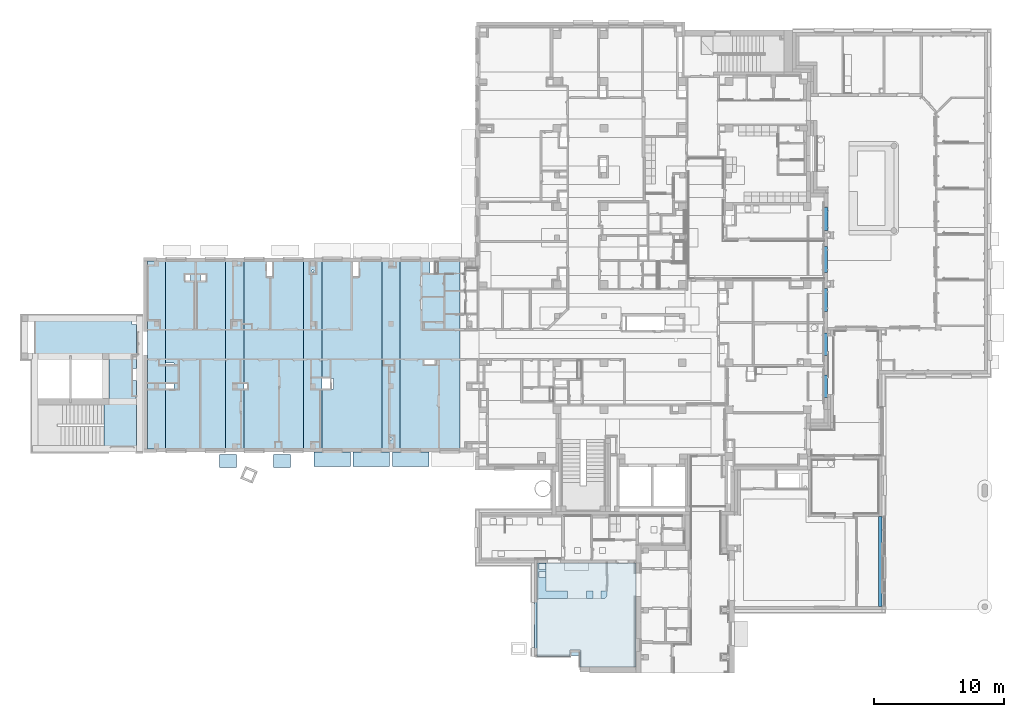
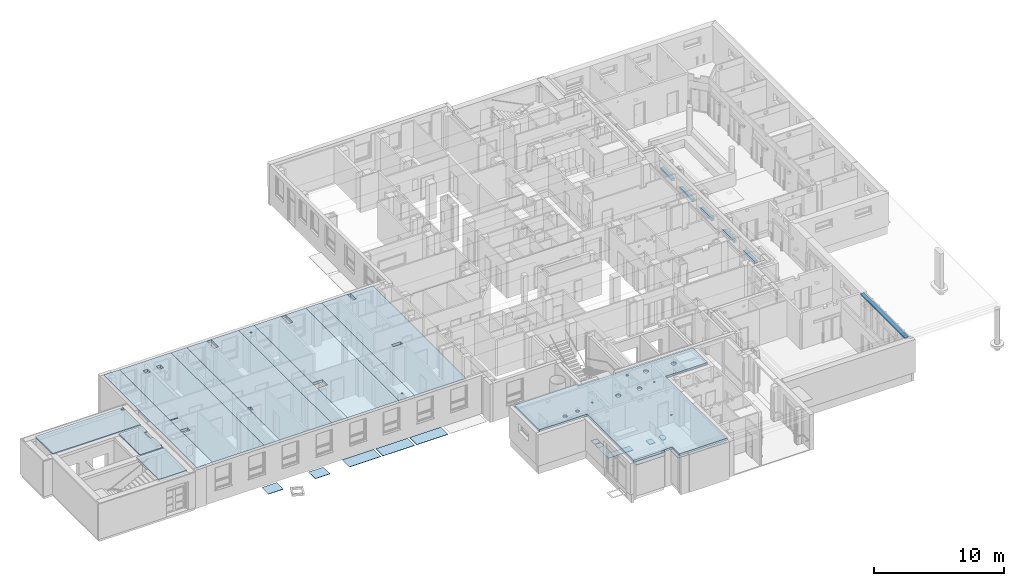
# One storey, part 7 of 140: 19 slabs, 6 beams, 25 openings.
"""IFC4 building model written with IfcOpenShell, lengths in metres."""

from ifc_helpers import new_model, entity, si_unit, converted_unit, derived_unit, frame, frame_2d, origin, origin_with_axes, place, context, subcontext, project, spatial, polyline, rectangle, circle, outline, extrude, material, element, save


model = new_model("IFC4")

# Units and contexts
model_context = context("Model", 3, precision=1e-05, world=origin())
body_context = subcontext(model_context, "Body", "Model", "MODEL_VIEW")
ifc_project = project(units=[si_unit("LENGTHUNIT", "METRE"), si_unit("AREAUNIT", "SQUARE_METRE"), si_unit("VOLUMEUNIT", "CUBIC_METRE"), si_unit("MASSUNIT", "GRAM", prefix="KILO"), converted_unit("PLANEANGLEUNIT", "DEGREE", entity("IfcPlaneAngleMeasure", 0.0174532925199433), si_unit("PLANEANGLEUNIT", "RADIAN"), dimensions=[0, 0, 0, 0, 0, 0, 0]), derived_unit("THERMALTRANSMITTANCEUNIT", [(si_unit("POWERUNIT", "WATT"), 1), (si_unit("THERMODYNAMICTEMPERATUREUNIT", "KELVIN"), -1), (si_unit("LENGTHUNIT", "METRE"), -2)]), derived_unit("VOLUMETRICFLOWRATEUNIT", [(si_unit("LENGTHUNIT", "METRE"), 3), (converted_unit("TIMEUNIT", "hour", entity("IfcTimeMeasure", 3600.0), si_unit("TIMEUNIT", "SECOND"), dimensions=[0, 0, 1, 0, 0, 0, 0]), -1), (si_unit("LENGTHUNIT", "METRE"), -1)])], contexts=[model_context])

# Site, building, storey
site_placement = place(None, origin())
site = spatial("IfcSite", under=ifc_project, at=site_placement, Name="3. ASŘ", CompositionType="ELEMENT")
building_placement = place(site_placement, origin())
building = spatial("IfcBuilding", under=site, at=building_placement, Name="Pavilon C", CompositionType="ELEMENT")
storey_placement = place(building_placement, origin())
storey = spatial("IfcBuildingStorey", under=building, at=storey_placement, Name="Půdorys 1.NP", CompositionType="ELEMENT", Elevation=0.0)

# Beams
ifc_material_1 = material(Name="PY3e - NOP 250-1750")
beam_1_placement = place(storey_placement, frame((51.5, 4.52499999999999, 2.1), z_axis=(0.0, 0.0, 1.0), x_axis=(0.0, 1.0, 0.0)))
element("IfcBeam", 1, at=beam_1_placement, inside=storey, material=ifc_material_1, Name="%K0PY3e", PredefinedType="NOTDEFINED", context=body_context, shape_type="SweptSolid", body=[
    extrude(rectangle(XDim=0.25, YDim=0.249, at=frame_2d((0.125, 0.1245), x_axis=(1.0, 0.0))), frame((0.0, 0.0, 0.0), z_axis=(1.0, 0.0, 0.0), x_axis=(0.0, 1.0, 0.0)), (0.0, 0.0, 1.0), 1.75),
])
ifc_material_2 = material(Name="PY4e - NOP 250-2000")
beam_2_placement = place(storey_placement, frame((51.5, 14.125, 2.1), z_axis=(0.0, 0.0, 1.0), x_axis=(0.0, 1.0, 0.0)))
element("IfcBeam", 2, at=beam_2_placement, inside=storey, material=ifc_material_2, Name="%K0PY4e", PredefinedType="NOTDEFINED", context=body_context, shape_type="SweptSolid", body=[
    extrude(rectangle(XDim=0.25, YDim=0.249, at=frame_2d((0.125, 0.1245), x_axis=(1.0, 0.0))), frame((0.0, 0.0, 0.0), z_axis=(1.0, 0.0, 0.0), x_axis=(0.0, 1.0, 0.0)), (0.0, 0.0, 1.0), 2.0),
])
ifc_material_3 = material(Name="PY3e - NOP 250-1750")
beam_3_placement = place(storey_placement, frame((51.5, 11.15, 2.1), z_axis=(0.0, 0.0, 1.0), x_axis=(0.0, 1.0, 0.0)))
element("IfcBeam", 3, at=beam_3_placement, inside=storey, material=ifc_material_3, Name="%K0PY3e", PredefinedType="NOTDEFINED", context=body_context, shape_type="SweptSolid", body=[
    extrude(rectangle(XDim=0.25, YDim=0.249, at=frame_2d((0.125, 0.1245), x_axis=(1.0, 0.0))), frame((0.0, 0.0, 0.0), z_axis=(1.0, 0.0, 0.0), x_axis=(0.0, 1.0, 0.0)), (0.0, 0.0, 1.0), 1.75),
])
ifc_material_4 = material(Name="PY3e - NOP 250-1750")
beam_4_placement = place(storey_placement, frame((51.5, 7.74999999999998, 2.1), z_axis=(0.0, 0.0, 1.0), x_axis=(0.0, 1.0, 0.0)))
element("IfcBeam", 4, at=beam_4_placement, inside=storey, material=ifc_material_4, Name="%K0PY3e", PredefinedType="NOTDEFINED", context=body_context, shape_type="SweptSolid", body=[
    extrude(rectangle(XDim=0.25, YDim=0.249, at=frame_2d((0.125, 0.1245), x_axis=(1.0, 0.0))), frame((0.0, 0.0, 0.0), z_axis=(1.0, 0.0, 0.0), x_axis=(0.0, 1.0, 0.0)), (0.0, 0.0, 1.0), 1.75),
])
ifc_material_5 = material(Name="PY3f - NOP 300-1750")
beam_5_placement = place(storey_placement, frame((51.55, 17.35, 2.1), z_axis=(0.0, 0.0, 1.0), x_axis=(0.0, 1.0, 0.0)))
element("IfcBeam", 5, at=beam_5_placement, inside=storey, material=ifc_material_5, Name="%K0PY3f", PredefinedType="NOTDEFINED", context=body_context, shape_type="SweptSolid", body=[
    extrude(rectangle(XDim=0.3, YDim=0.249, at=frame_2d((0.15, 0.1245), x_axis=(1.0, 0.0))), frame((0.0, 0.0, 0.0), z_axis=(1.0, 0.0, 0.0), x_axis=(0.0, 1.0, 0.0)), (0.0, 0.0, 1.0), 1.75),
])
ifc_material_6 = material(Name="ZELEZOBETONOVÁ KCE")
beam_6_placement = place(storey_placement, frame((55.7000000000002, -11.5, 3.28), z_axis=(0.0, 0.0, 1.0), x_axis=(0.0, 1.0, 0.0)))
element("IfcBeam", 6, at=beam_6_placement, inside=storey, material=ifc_material_6, PredefinedType="NOTDEFINED", context=body_context, shape_type="SweptSolid", body=[
    extrude(rectangle(XDim=0.3, YDim=0.12, at=frame_2d((0.15, 0.06), x_axis=(1.0, 0.0))), frame((0.0, 0.0, 0.0), z_axis=(1.0, 0.0, 0.0), x_axis=(0.0, 1.0, 0.0)), (0.0, 0.0, 1.0), 6.9),
])

# Slab, opening
ifc_material_7 = material(Name="PZD")
slab_1_placement = place(storey_placement, frame((-9.37499999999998, 7.80000000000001, 3.38)))
slab_1 = element("IfcSlab", 7, at=slab_1_placement, inside=storey, material=ifc_material_7, PredefinedType="FLOOR", context=body_context, shape_type="SweptSolid", body=[
    extrude(rectangle(XDim=7.84999999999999, YDim=2.70000000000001, at=frame_2d((3.925, 1.35), x_axis=(1.0, 0.0))), origin_with_axes(), (0.0, 0.0, 1.0), 0.1),
])
opening_1_placement = place(slab_1_placement, frame((7.49999999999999, 2.35, 0.0)))
element("IfcOpeningElement", 8, at=opening_1_placement, cuts=slab_1, Name="Prostup deskou", ObjectType="Opening", context=body_context, shape_type="SweptSolid", body=[
    extrude(rectangle(XDim=0.2, YDim=0.35, at=frame_2d((0.0, 1.81898940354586e-15), x_axis=(0.0, -1.0))), frame((0.175, 0.0999999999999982, 0.0), z_axis=(0.0, 0.0, 1.0), x_axis=(1.0, 0.0, 0.0)), (0.0, 0.0, 1.0), 0.1),
])

# Slab, openings
ifc_material_8 = material(Name="PZD")
slab_2_placement = place(storey_placement, frame((-3.62499999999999, 4.3, 3.38)))
slab_2 = element("IfcSlab", 9, at=slab_2_placement, inside=storey, material=ifc_material_8, PredefinedType="FLOOR", context=body_context, shape_type="SweptSolid", body=[
    extrude(rectangle(XDim=2.1, YDim=3.3, at=frame_2d((1.05, 1.65), x_axis=(1.0, 0.0))), origin_with_axes(), (0.0, 0.0, 1.0), 0.1),
])
opening_2_placement = place(slab_2_placement, frame((2.0, 0.15, 0.0)))
element("IfcOpeningElement", 10, at=opening_2_placement, cuts=slab_2, Name="Prostup deskou", ObjectType="Opening", context=body_context, shape_type="SweptSolid", body=[
    extrude(rectangle(XDim=0.1, YDim=0.1, at=frame_2d((0.0, 0.0), x_axis=(0.0, -1.0))), frame((0.05, 0.05, 0.0), z_axis=(0.0, 0.0, 1.0), x_axis=(1.0, 0.0, 0.0)), (0.0, 0.0, 1.0), 0.1),
])
opening_3_placement = place(slab_2_placement, frame((1.8, 1.55, 0.0)))
element("IfcOpeningElement", 11, at=opening_3_placement, cuts=slab_2, Name="Prostup deskou", ObjectType="Opening", context=body_context, shape_type="SweptSolid", body=[
    extrude(rectangle(XDim=0.9, YDim=0.3, at=frame_2d((0.0, -9.09494701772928e-16), x_axis=(0.0, -1.0))), frame((0.15, 0.450000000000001, 0.0), z_axis=(0.0, 0.0, 1.0), x_axis=(1.0, 0.0, 0.0)), (0.0, 0.0, 1.0), 0.1),
])

# Slabs
ifc_material_9 = material(Name="PZD")
slab_3_placement = place(storey_placement, frame((-4.0249, 0.700000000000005, 3.23)))
element("IfcSlab", 12, at=slab_3_placement, inside=storey, material=ifc_material_9, PredefinedType="FLOOR", context=body_context, shape_type="SweptSolid", body=[
    extrude(rectangle(XDim=2.4999, YDim=3.5, at=frame_2d((1.24995, 1.75), x_axis=(1.0, 0.0))), origin_with_axes(), (0.0, 0.0, 1.0), 0.25),
])
ifc_material_10 = material(Name="RZT")
slab_4_placement = place(storey_placement, frame((5.30000000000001, 0.600000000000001, 3.25)))
element("IfcSlab", 13, at=slab_4_placement, inside=storey, material=ifc_material_10, PredefinedType="FLOOR", context=body_context, shape_type="SweptSolid", body=[
    extrude(rectangle(XDim=1.4, YDim=14.4, at=frame_2d((0.700000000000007, 7.2), x_axis=(1.0, -2.59855629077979e-15))), frame((0.0, 3.63797880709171e-15, 0.0), z_axis=(0.0, 0.0, 1.0), x_axis=(1.0, 0.0, 0.0)), (0.0, 0.0, 1.0), 0.25),
])
ifc_material_11 = material(Name="RZT")
slab_5_placement = place(storey_placement, frame((-0.699999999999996, 0.600000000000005, 3.25)))
element("IfcSlab", 14, at=slab_5_placement, inside=storey, material=ifc_material_11, PredefinedType="FLOOR", context=body_context, shape_type="SweptSolid", body=[
    extrude(rectangle(XDim=1.4, YDim=14.4, at=frame_2d((0.700000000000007, 7.2), x_axis=(1.0, 0.0))), origin_with_axes(), (0.0, 0.0, 1.0), 0.25),
])

# Slab, openings
ifc_material_12 = material(Name="PZD")
slab_6_placement = place(storey_placement, frame((0.700000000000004, 0.600000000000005, 3.25)))
slab_6 = element("IfcSlab", 15, at=slab_6_placement, inside=storey, material=ifc_material_12, PredefinedType="FLOOR", context=body_context, shape_type="SweptSolid", body=[
    extrude(rectangle(XDim=14.4, YDim=4.60000000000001, at=frame_2d((2.3, -7.2), x_axis=(-1.01054966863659e-15, -1.0))), frame((1.45519152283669e-14, 14.4, 0.0), z_axis=(0.0, 0.0, 1.0), x_axis=(1.0, 0.0, 0.0)), (0.0, 0.0, 1.0), 0.25),
])
opening_4_placement = place(slab_6_placement, frame((1.52500000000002, 12.905, 0.0)))
element("IfcOpeningElement", 16, at=opening_4_placement, cuts=slab_6, Name="Prostup deskou", ObjectType="Opening", context=body_context, shape_type="SweptSolid", body=[
    extrude(rectangle(XDim=0.45, YDim=0.4, at=frame_2d((0.0, 0.0), x_axis=(0.0, -1.0))), frame((0.2, 0.225, 0.0), z_axis=(0.0, 0.0, 1.0), x_axis=(1.0, 0.0, 0.0)), (0.0, 0.0, 1.0), 0.25),
])
opening_5_placement = place(slab_6_placement, frame((2.67500000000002, 12.905, 0.0)))
element("IfcOpeningElement", 17, at=opening_5_placement, cuts=slab_6, Name="Prostup deskou", ObjectType="Opening", context=body_context, shape_type="SweptSolid", body=[
    extrude(rectangle(XDim=0.45, YDim=0.4, at=frame_2d((0.0, 0.0), x_axis=(0.0, -1.0))), frame((0.2, 0.225, 0.0), z_axis=(0.0, 0.0, 1.0), x_axis=(1.0, 0.0, 0.0)), (0.0, 0.0, 1.0), 0.25),
])
opening_6_placement = place(slab_6_placement, frame((1.45519152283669e-14, 4.6, 0.0)))
element("IfcOpeningElement", 18, at=opening_6_placement, cuts=slab_6, Name="Prostup deskou", ObjectType="Opening", context=body_context, shape_type="SweptSolid", body=[
    extrude(rectangle(XDim=0.4, YDim=0.65, at=frame_2d((0.0, 0.0), x_axis=(0.0, -1.0))), frame((0.325, 0.2, 0.0), z_axis=(0.0, 0.0, 1.0), x_axis=(1.0, 0.0, 0.0)), (0.0, 0.0, 1.0), 0.25),
])
opening_7_placement = place(slab_6_placement, frame((1.44382283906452e-14, 6.475, 0.0)))
element("IfcOpeningElement", 19, at=opening_7_placement, cuts=slab_6, Name="Prostup deskou", ObjectType="Opening", context=body_context, shape_type="SweptSolid", body=[
    extrude(rectangle(XDim=0.1, YDim=0.65, at=frame_2d((-5.6843418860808e-17, 1.81898940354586e-15), x_axis=(1.13686837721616e-15, -1.0))), frame((0.325, 0.0499999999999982, 0.0), z_axis=(0.0, 0.0, 1.0), x_axis=(1.0, 0.0, 0.0)), (0.0, 0.0, 1.0), 0.25),
])

ifc_material_13 = material(Name="PZD")
slab_7_placement = place(storey_placement, frame((18.7, 0.600000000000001, 3.25)))
slab_7 = element("IfcSlab", 20, at=slab_7_placement, inside=storey, material=ifc_material_13, PredefinedType="FLOOR", context=body_context, shape_type="SweptSolid", body=[
    extrude(rectangle(XDim=14.4, YDim=4.60000000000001, at=frame_2d((2.3, -7.2), x_axis=(-5.05274834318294e-16, -1.0))), frame((7.27595761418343e-15, 14.4, 0.0), z_axis=(0.0, 0.0, 1.0), x_axis=(1.0, 0.0, 0.0)), (0.0, 0.0, 1.0), 0.25),
])
opening_8_placement = place(slab_7_placement, frame((2.275, 13.5, 0.0)))
element("IfcOpeningElement", 21, at=opening_8_placement, cuts=slab_7, Name="Prostup deskou", ObjectType="Opening", context=body_context, shape_type="SweptSolid", body=[
    extrude(rectangle(XDim=0.83, YDim=0.3, at=frame_2d((0.0, -1.81898940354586e-15), x_axis=(0.0, -1.0))), frame((0.15, 0.415000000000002, 0.0), z_axis=(0.0, 0.0, 1.0), x_axis=(1.0, 0.0, 0.0)), (0.0, 0.0, 1.0), 0.25),
])
opening_9_placement = place(slab_7_placement, frame((1.85000000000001, 6.5, 0.0)))
element("IfcOpeningElement", 22, at=opening_9_placement, cuts=slab_7, Name="Prostup deskou", ObjectType="Opening", context=body_context, shape_type="SweptSolid", body=[
    extrude(rectangle(XDim=0.3, YDim=0.8, at=frame_2d((0.0, 0.0), x_axis=(0.0, -1.0))), frame((0.4, 0.15, 0.0), z_axis=(0.0, 0.0, 1.0), x_axis=(1.0, 0.0, 0.0)), (0.0, 0.0, 1.0), 0.25),
])

ifc_material_14 = material(Name="PZD")
slab_8_placement = place(storey_placement, frame((12.7, 0.600000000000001, 3.25)))
slab_8 = element("IfcSlab", 23, at=slab_8_placement, inside=storey, material=ifc_material_14, PredefinedType="FLOOR", context=body_context, shape_type="SweptSolid", body=[
    extrude(rectangle(XDim=14.4, YDim=4.60000000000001, at=frame_2d((2.3, -7.2), x_axis=(-1.01054966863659e-15, -1.0))), frame((1.45519152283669e-14, 14.4, 0.0), z_axis=(0.0, 0.0, 1.0), x_axis=(1.0, 0.0, 0.0)), (0.0, 0.0, 1.0), 0.25),
])
opening_10_placement = place(slab_8_placement, frame((2.40000000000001, 13.23, 0.0)))
element("IfcOpeningElement", 24, at=opening_10_placement, cuts=slab_8, Name="Prostup deskou", ObjectType="Opening", context=body_context, shape_type="SweptSolid", body=[
    extrude(rectangle(XDim=1.1, YDim=0.4, at=frame_2d((-1.81898940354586e-15, -1.81898940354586e-15), x_axis=(0.0, -1.0))), frame((0.200000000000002, 0.550000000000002, 0.0), z_axis=(0.0, 0.0, 1.0), x_axis=(1.0, 0.0, 0.0)), (0.0, 0.0, 1.0), 0.25),
])
opening_11_placement = place(slab_8_placement, frame((7.27595761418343e-15, 4.6, 0.0)))
element("IfcOpeningElement", 25, at=opening_11_placement, cuts=slab_8, Name="Prostup deskou", ObjectType="Opening", context=body_context, shape_type="SweptSolid", body=[
    extrude(rectangle(XDim=0.8, YDim=0.9, at=frame_2d((-1.81898940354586e-15, 0.0), x_axis=(0.0, -1.0))), frame((0.450000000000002, 0.4, 0.0), z_axis=(0.0, 0.0, 1.0), x_axis=(1.0, 0.0, 0.0)), (0.0, 0.0, 1.0), 0.25),
])

ifc_material_15 = material(Name="PZD")
slab_9_placement = place(storey_placement, frame((6.70000000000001, 0.600000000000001, 3.25)))
slab_9 = element("IfcSlab", 26, at=slab_9_placement, inside=storey, material=ifc_material_15, PredefinedType="FLOOR", context=body_context, shape_type="SweptSolid", body=[
    extrude(rectangle(XDim=14.4, YDim=4.60000000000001, at=frame_2d((2.3, -7.2), x_axis=(-1.01054966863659e-15, -1.0))), frame((1.45519152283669e-14, 14.4, 0.0), z_axis=(0.0, 0.0, 1.0), x_axis=(1.0, 0.0, 0.0)), (0.0, 0.0, 1.0), 0.25),
])
opening_12_placement = place(slab_9_placement, frame((1.775, 13.23, 0.0)))
element("IfcOpeningElement", 27, at=opening_12_placement, cuts=slab_9, Name="Prostup deskou", ObjectType="Opening", context=body_context, shape_type="SweptSolid", body=[
    extrude(rectangle(XDim=1.1, YDim=0.4, at=frame_2d((-1.81898940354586e-15, -1.81898940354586e-15), x_axis=(0.0, -1.0))), frame((0.200000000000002, 0.550000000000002, 0.0), z_axis=(0.0, 0.0, 1.0), x_axis=(1.0, 0.0, 0.0)), (0.0, 0.0, 1.0), 0.25),
])
opening_13_placement = place(slab_9_placement, frame((2.18278728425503e-14, 4.6, 0.0)))
element("IfcOpeningElement", 28, at=opening_13_placement, cuts=slab_9, Name="Prostup deskou", ObjectType="Opening", context=body_context, shape_type="SweptSolid", body=[
    extrude(rectangle(XDim=0.4, YDim=0.284999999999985, at=frame_2d((1.81898940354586e-15, 0.0), x_axis=(0.0, -1.0))), frame((0.142499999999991, 0.2, 0.0), z_axis=(0.0, 0.0, 1.0), x_axis=(1.0, 0.0, 0.0)), (0.0, 0.0, 1.0), 0.25),
])

# Slab, opening
ifc_material_16 = material(Name="RZT")
slab_10_placement = place(storey_placement, frame((11.3, 0.600000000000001, 3.25)))
slab_10 = element("IfcSlab", 29, at=slab_10_placement, inside=storey, material=ifc_material_16, PredefinedType="FLOOR", context=body_context, shape_type="SweptSolid", body=[
    extrude(rectangle(XDim=1.4, YDim=14.4, at=frame_2d((-0.700000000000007, -7.2), x_axis=(-1.0, 0.0))), frame((1.40000000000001, 14.4, 0.0), z_axis=(0.0, 0.0, 1.0), x_axis=(1.0, 0.0, 0.0)), (0.0, 0.0, 1.0), 0.25),
])
opening_14_placement = place(slab_10_placement, frame((0.625077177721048, 13.5750771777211, 0.0)))
element("IfcOpeningElement", 30, at=opening_14_placement, cuts=slab_10, Name="Prostup deskou", ObjectType="Opening", context=body_context, shape_type="SweptSolid", body=[
    extrude(circle(Radius=0.0750000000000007, at=frame_2d((1.81898940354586e-15, -3.63797880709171e-15), x_axis=(1.0, 0.0))), frame((0.0749228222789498, 0.0749228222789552, 0.0), z_axis=(0.0, 0.0, 1.0), x_axis=(1.0, 0.0, 0.0)), (0.0, 0.0, 1.0), 0.25),
])

ifc_material_17 = material(Name="RZT")
slab_11_placement = place(storey_placement, frame((17.3, 0.600000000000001, 3.25)))
slab_11 = element("IfcSlab", 31, at=slab_11_placement, inside=storey, material=ifc_material_17, PredefinedType="FLOOR", context=body_context, shape_type="SweptSolid", body=[
    extrude(rectangle(XDim=14.4, YDim=1.4, at=frame_2d((0.699999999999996, -7.2), x_axis=(-5.05274834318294e-16, -1.0))), frame((7.27595761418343e-15, 14.4, 0.0), z_axis=(0.0, 0.0, 1.0), x_axis=(1.0, 0.0, 0.0)), (0.0, 0.0, 1.0), 0.25),
])
opening_15_placement = place(slab_11_placement, frame((0.625077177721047, 0.675077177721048, 0.0)))
element("IfcOpeningElement", 32, at=opening_15_placement, cuts=slab_11, Name="Prostup deskou", ObjectType="Opening", context=body_context, shape_type="SweptSolid", body=[
    extrude(circle(Radius=0.075, at=frame_2d((3.63797880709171e-15, -4.54747350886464e-16), x_axis=(1.0, 0.0))), frame((0.0749228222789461, 0.0749228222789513, 0.0), z_axis=(0.0, 0.0, 1.0), x_axis=(1.0, 0.0, 0.0)), (0.0, 0.0, 1.0), 0.25),
])

# Slabs
ifc_material_18 = material(Name="Kuchyňská deska")
slab_12_placement = place(storey_placement, frame((29.3, -10.9, 0.82)))
element("IfcSlab", 33, at=slab_12_placement, inside=storey, material=ifc_material_18, PredefinedType="FLOOR", context=body_context, shape_type="SweptSolid", body=[
    extrude(outline(polyline([(0.0, 2.75), (0.0, 0.0), (2.22999999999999, 3.63797880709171e-15), (2.22999999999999, 0.600000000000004), (0.6, 0.600000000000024), (0.6, 2.75), (0.0, 2.75)]), holes=[polyline([(0.106317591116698, 1.61825961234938), (0.0978989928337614, 1.6205153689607), (0.0900000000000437, 1.62419872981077), (0.0828606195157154, 1.62919777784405), (0.076697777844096, 1.63536061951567), (0.0716987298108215, 1.64249999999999), (0.0680153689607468, 1.65039899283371), (0.0657596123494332, 1.65881759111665), (0.0650000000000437, 1.66749999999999), (0.0650000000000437, 2.03249999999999), (0.0657596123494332, 2.04118240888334), (0.0680153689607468, 2.04960100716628), (0.0716987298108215, 2.05749999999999), (0.076697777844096, 2.06463938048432), (0.0828606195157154, 2.07080222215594), (0.0900000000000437, 2.07580127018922), (0.0978989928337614, 2.07948463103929), (0.106317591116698, 2.0817403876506), (0.115000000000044, 2.08249999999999), (0.500000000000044, 2.08249999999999), (0.508682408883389, 2.0817403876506), (0.517101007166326, 2.07948463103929), (0.525000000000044, 2.07580127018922), (0.532139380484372, 2.07080222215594), (0.538302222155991, 2.06463938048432), (0.543301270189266, 2.05749999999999), (0.54698463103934, 2.04960100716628), (0.549240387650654, 2.04118240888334), (0.550000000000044, 2.03249999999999), (0.550000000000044, 1.66749999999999), (0.549240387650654, 1.65881759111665), (0.54698463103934, 1.65039899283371), (0.543301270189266, 1.64249999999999), (0.538302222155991, 1.63536061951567), (0.532139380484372, 1.62919777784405), (0.525000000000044, 1.62419872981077), (0.517101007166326, 1.6205153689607), (0.508682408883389, 1.61825961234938), (0.500000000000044, 1.61749999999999), (0.115000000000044, 1.61749999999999), (0.106317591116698, 1.61825961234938)]), polyline([(0.115000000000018, 2.68250000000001), (0.500000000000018, 2.68250000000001), (0.508682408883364, 2.68174038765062), (0.5171010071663, 2.6794846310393), (0.525000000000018, 2.67580127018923), (0.532139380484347, 2.67080222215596), (0.538302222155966, 2.66463938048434), (0.54330127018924, 2.65750000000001), (0.546984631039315, 2.64960100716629), (0.549240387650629, 2.64118240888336), (0.550000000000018, 2.63250000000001), (0.550000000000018, 2.26750000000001), (0.549240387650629, 2.25881759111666), (0.546984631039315, 2.25039899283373), (0.54330127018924, 2.24250000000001), (0.538302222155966, 2.23536061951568), (0.532139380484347, 2.22919777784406), (0.525000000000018, 2.22419872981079), (0.5171010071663, 2.22051536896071), (0.508682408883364, 2.2182596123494), (0.500000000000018, 2.21750000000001), (0.115000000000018, 2.21750000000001), (0.106317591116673, 2.2182596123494), (0.097898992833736, 2.22051536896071), (0.0900000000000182, 2.22419872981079), (0.0828606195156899, 2.22919777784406), (0.0766977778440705, 2.23536061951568), (0.0716987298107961, 2.24250000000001), (0.0680153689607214, 2.25039899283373), (0.0657596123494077, 2.25881759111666), (0.0650000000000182, 2.26750000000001), (0.0650000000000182, 2.63250000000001), (0.0657596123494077, 2.64118240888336), (0.0680153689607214, 2.64960100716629), (0.0716987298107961, 2.65750000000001), (0.0766977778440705, 2.66463938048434), (0.0828606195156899, 2.67080222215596), (0.0900000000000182, 2.67580127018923), (0.097898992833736, 2.6794846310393), (0.106317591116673, 2.68174038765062), (0.115000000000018, 2.68250000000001)])]), origin_with_axes(), (0.0, 0.0, 1.0), 0.03),
    extrude(rectangle(XDim=0.500000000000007, YDim=0.600000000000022, at=frame_2d((-0.250000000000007, -0.300000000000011), x_axis=(-1.0, 0.0))), frame((4.19599999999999, 0.600000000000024, 0.0), z_axis=(0.0, 0.0, 1.0), x_axis=(1.0, 0.0, 0.0)), (0.0, 0.0, 1.0), 0.03),
    extrude(outline(polyline([(0.153920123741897, 0.000140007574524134), (0.164079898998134, 0.000502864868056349), (0.173032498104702, 0.00093968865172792), (0.180739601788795, 0.0017682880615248), (0.196368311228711, 0.00371640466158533), (0.205115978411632, 0.00529465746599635), (0.219327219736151, 0.00827444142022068), (0.228277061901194, 0.0105587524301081), (0.242070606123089, 0.0146652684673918), (0.250678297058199, 0.0175301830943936), (0.264780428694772, 0.0230328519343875), (0.272351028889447, 0.0261686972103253), (0.289138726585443, 0.0343757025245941), (0.293231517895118, 0.0364244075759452), (0.313193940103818, 0.0483194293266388), (0.31854026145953, 0.0520314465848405), (0.33219112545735, 0.061777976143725), (0.338895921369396, 0.0671810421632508), (0.350155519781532, 0.0767174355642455), (0.356877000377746, 0.0829753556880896), (0.36702464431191, 0.0931229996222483), (0.373282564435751, 0.0998444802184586), (0.382818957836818, 0.111104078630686), (0.388222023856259, 0.117808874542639), (0.397968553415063, 0.131459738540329), (0.401680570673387, 0.136806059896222), (0.413575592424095, 0.156768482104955), (0.415624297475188, 0.160861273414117), (0.423831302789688, 0.177648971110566), (0.426967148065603, 0.185219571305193), (0.432469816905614, 0.19932170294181), (0.435334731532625, 0.207929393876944), (0.439441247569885, 0.221722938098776), (0.441725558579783, 0.230672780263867), (0.444705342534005, 0.244884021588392), (0.446283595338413, 0.253631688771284), (0.448231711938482, 0.269260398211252), (0.449235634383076, 0.278598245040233), (0.449387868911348, 0.282860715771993), (0.45, 0.283446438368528), (0.45, 0.600000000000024), (0.0, 0.600000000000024), (0.0, 3.63797880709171e-15), (0.153773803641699, 0.0), (0.153920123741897, 0.000140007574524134)])), frame((4.83199999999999, 0.0, 0.0), z_axis=(0.0, 0.0, 1.0), x_axis=(1.0, 0.0, 0.0)), (0.0, 0.0, 1.0), 0.03),
])
ifc_material_19 = material(Name="KRYCÍ ROŠT ANGLICKÉHO DVORKU")
slab_13_placement = place(storey_placement, frame((12.1, -0.755000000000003, -0.13)))
element("IfcSlab", 34, at=slab_13_placement, inside=storey, material=ifc_material_19, PredefinedType="FLOOR", context=body_context, shape_type="SweptSolid", body=[
    extrude(rectangle(XDim=1.10500000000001, YDim=2.8, at=frame_2d((1.4, -0.552500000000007), x_axis=(0.0, -1.0))), frame((0.0, 1.10500000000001, 0.0), z_axis=(0.0, 0.0, 1.0), x_axis=(1.0, 0.0, 0.0)), (0.0, 0.0, 1.0), 0.03),
])
ifc_material_20 = material(Name="KRYCÍ ROŠT ANGLICKÉHO DVORKU")
slab_14_placement = place(storey_placement, frame((15.1, -0.755000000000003, -0.13)))
element("IfcSlab", 35, at=slab_14_placement, inside=storey, material=ifc_material_20, PredefinedType="FLOOR", context=body_context, shape_type="SweptSolid", body=[
    extrude(rectangle(XDim=1.10500000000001, YDim=2.8, at=frame_2d((1.4, -0.552500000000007), x_axis=(0.0, -1.0))), frame((0.0, 1.10500000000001, 0.0), z_axis=(0.0, 0.0, 1.0), x_axis=(1.0, 0.0, 0.0)), (0.0, 0.0, 1.0), 0.03),
])
ifc_material_21 = material(Name="KRYCÍ ROŠT ANGLICKÉHO DVORKU")
slab_15_placement = place(storey_placement, frame((18.1, -0.755000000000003, -0.13)))
element("IfcSlab", 36, at=slab_15_placement, inside=storey, material=ifc_material_21, PredefinedType="FLOOR", context=body_context, shape_type="SweptSolid", body=[
    extrude(rectangle(XDim=1.10500000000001, YDim=2.8, at=frame_2d((1.4, -0.552500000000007), x_axis=(0.0, -1.0))), frame((0.0, 1.10500000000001, 0.0), z_axis=(0.0, 0.0, 1.0), x_axis=(1.0, 0.0, 0.0)), (0.0, 0.0, 1.0), 0.03),
])
ifc_material_22 = material(Name="KRYCÍ ROŠT ANGLICKÉHO DVORKU")
slab_16_placement = place(storey_placement, frame((4.84500000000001, -0.855000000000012, -0.08)))
element("IfcSlab", 37, at=slab_16_placement, inside=storey, material=ifc_material_22, PredefinedType="FLOOR", context=body_context, shape_type="SweptSolid", body=[
    extrude(rectangle(XDim=1.03, YDim=1.31, at=frame_2d((0.654999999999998, -0.514999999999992), x_axis=(0.0, -1.0))), frame((0.0, 1.03, 0.0), z_axis=(0.0, 0.0, 1.0), x_axis=(1.0, 0.0, 0.0)), (0.0, 0.0, 1.0), 0.03),
])
ifc_material_23 = material(Name="KRYCÍ ROŠT ANGLICKÉHO DVORKU")
slab_17_placement = place(storey_placement, frame((8.99500000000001, -0.855000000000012, -0.08)))
element("IfcSlab", 38, at=slab_17_placement, inside=storey, material=ifc_material_23, PredefinedType="FLOOR", context=body_context, shape_type="SweptSolid", body=[
    extrude(rectangle(XDim=1.03, YDim=1.31, at=frame_2d((0.654999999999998, -0.514999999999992), x_axis=(0.0, -1.0))), frame((0.0, 1.03, 0.0), z_axis=(0.0, 0.0, 1.0), x_axis=(1.0, 0.0, 0.0)), (0.0, 0.0, 1.0), 0.03),
])

# Slab, openings
ifc_material_24 = material(Name="ZELEZOBETONOVÁ KCE")
slab_18_placement = place(storey_placement, frame((24.75, -16.345, 3.25)))
slab_18 = element("IfcSlab", 39, at=slab_18_placement, inside=storey, material=ifc_material_24, PredefinedType="FLOOR", context=body_context, shape_type="SweptSolid", body=[
    extrude(outline(polyline([(0.0, 12.045), (0.0, 8.19500000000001), (4.25, 8.195), (4.25, 1.01500000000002), (6.98, 1.01500000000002), (6.98, 1.06500000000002), (7.77, 1.06500000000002), (7.77, 0.0), (12.03, 3.45607986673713e-14), (12.03, 9.56500000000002), (15.78, 9.56500000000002), (15.78, 11.825), (5.58, 11.825), (5.58, 12.045), (0.0, 12.045)])), origin_with_axes(), (0.0, 0.0, 1.0), 0.2),
])
opening_16_placement = place(slab_18_placement, frame((7.37520580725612, 8.94520580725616, 0.0)))
element("IfcOpeningElement", 40, at=opening_16_placement, cuts=slab_18, Name="Prostup deskou", ObjectType="Opening", context=body_context, shape_type="SweptSolid", body=[
    extrude(circle(Radius=0.2, at=frame_2d((7.27595761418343e-15, 9.09494701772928e-16), x_axis=(1.0, 0.0))), frame((0.199794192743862, 0.199794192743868, 0.0), z_axis=(0.0, 0.0, 1.0), x_axis=(1.0, 0.0, 0.0)), (0.0, 0.0, 1.0), 0.2),
])
opening_17_placement = place(slab_18_placement, frame((9.27520580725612, 8.94520580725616, 0.0)))
element("IfcOpeningElement", 41, at=opening_17_placement, cuts=slab_18, Name="Prostup deskou", ObjectType="Opening", context=body_context, shape_type="SweptSolid", body=[
    extrude(circle(Radius=0.2, at=frame_2d((0.0, 3.63797880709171e-15), x_axis=(1.0, 0.0))), frame((0.199794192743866, 0.199794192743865, 0.0), z_axis=(0.0, 0.0, 1.0), x_axis=(1.0, 0.0, 0.0)), (0.0, 0.0, 1.0), 0.2),
])
opening_18_placement = place(slab_18_placement, frame((10.8502058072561, 10.6952058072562, 0.0)))
element("IfcOpeningElement", 42, at=opening_18_placement, cuts=slab_18, Name="Prostup deskou", ObjectType="Opening", context=body_context, shape_type="SweptSolid", body=[
    extrude(circle(Radius=0.2, at=frame_2d((0.0, 2.72848410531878e-15), x_axis=(1.0, 0.0))), frame((0.199794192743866, 0.199794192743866, 0.0), z_axis=(0.0, 0.0, 1.0), x_axis=(1.0, 0.0, 0.0)), (0.0, 0.0, 1.0), 0.2),
])
opening_19_placement = place(slab_18_placement, frame((13.225205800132, 10.5327058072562, 0.0)))
element("IfcOpeningElement", 43, at=opening_19_placement, cuts=slab_18, Name="Prostup deskou", ObjectType="Opening", context=body_context, shape_type="SweptSolid", body=[
    extrude(circle(Radius=0.2, at=frame_2d((0.0, -3.63797880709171e-15), x_axis=(1.0, 0.0))), frame((0.199794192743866, 0.199794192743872, 0.0), z_axis=(0.0, 0.0, 1.0), x_axis=(1.0, 0.0, 0.0)), (0.0, 0.0, 1.0), 0.2),
])
opening_20_placement = place(slab_18_placement, frame((10.805077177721, 9.24007540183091, 0.0)))
element("IfcOpeningElement", 44, at=opening_20_placement, cuts=slab_18, Name="Prostup deskou", ObjectType="Opening", context=body_context, shape_type="SweptSolid", body=[
    extrude(circle(Radius=0.0749999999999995, at=frame_2d((1.45519152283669e-14, -4.54747350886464e-15), x_axis=(1.0, 0.0))), frame((0.0749228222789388, 0.0749228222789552, 0.0), z_axis=(0.0, 0.0, 1.0), x_axis=(1.0, 0.0, 0.0)), (0.0, 0.0, 1.0), 0.2),
])
opening_21_placement = place(slab_18_placement, frame((5.28227275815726, 9.24007540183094, 0.0)))
element("IfcOpeningElement", 45, at=opening_21_placement, cuts=slab_18, Name="Prostup deskou", ObjectType="Opening", context=body_context, shape_type="SweptSolid", body=[
    extrude(circle(Radius=0.0749999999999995, at=frame_2d((1.09139364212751e-14, 2.72848410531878e-15), x_axis=(1.0, 0.0))), frame((0.0749228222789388, 0.0749228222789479, 0.0), z_axis=(0.0, 0.0, 1.0), x_axis=(1.0, 0.0, 0.0)), (0.0, 0.0, 1.0), 0.2),
])
opening_22_placement = place(slab_18_placement, frame((9.75126002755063, 4.77108813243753, 0.0)))
element("IfcOpeningElement", 46, at=opening_22_placement, cuts=slab_18, Name="Prostup deskou", ObjectType="Opening", context=body_context, shape_type="SweptSolid", body=[
    extrude(circle(Radius=0.0749999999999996, at=frame_2d((-1.45519152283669e-14, -3.63797880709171e-15), x_axis=(1.0, 0.0))), frame((0.0749228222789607, 0.0749228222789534, 0.0), z_axis=(0.0, 0.0, 1.0), x_axis=(1.0, 0.0, 0.0)), (0.0, 0.0, 1.0), 0.2),
])
opening_23_placement = place(slab_18_placement, frame((9.43502148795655, 11.0658100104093, 0.0)))
element("IfcOpeningElement", 47, at=opening_23_placement, cuts=slab_18, Name="Prostup deskou", ObjectType="Opening", context=body_context, shape_type="SweptSolid", body=[
    extrude(circle(Radius=0.0999999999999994, at=frame_2d((7.27595761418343e-15, 9.09494701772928e-16), x_axis=(1.0, 0.0))), frame((0.0998970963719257, 0.0998970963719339, 0.0), z_axis=(0.0, 0.0, 1.0), x_axis=(1.0, 0.0, 0.0)), (0.0, 0.0, 1.0), 0.2),
])
opening_24_placement = place(slab_18_placement, frame((2.4593185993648, 8.61018008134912, 4.54747350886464e-16)))
element("IfcOpeningElement", 48, at=opening_24_placement, cuts=slab_18, Name="Prostup deskou", ObjectType="Opening", context=body_context, shape_type="SweptSolid", body=[
    extrude(circle(Radius=0.175, at=frame_2d((0.0, -9.09494701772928e-16), x_axis=(1.0, 0.0))), frame((0.174819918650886, 0.174819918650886, -4.54747350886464e-16), z_axis=(0.0, 0.0, 1.0), x_axis=(1.0, 0.0, 0.0)), (0.0, 0.0, 1.0), 0.2),
])
opening_25_placement = place(slab_18_placement, frame((3.65015435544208, 8.7451543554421, 0.0)))
element("IfcOpeningElement", 49, at=opening_25_placement, cuts=slab_18, Name="Prostup deskou", ObjectType="Opening", context=body_context, shape_type="SweptSolid", body=[
    extrude(circle(Radius=0.15, at=frame_2d((-3.63797880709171e-15, 0.0), x_axis=(1.0, 0.0))), frame((0.149845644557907, 0.149845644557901, 0.0), z_axis=(0.0, 0.0, 1.0), x_axis=(1.0, 0.0, 0.0)), (0.0, 0.0, 1.0), 0.2),
])

# Slab
ifc_material_25 = material(Name="SDK hladký bílý")
slab_19_placement = place(storey_placement, frame((29.2, -16.145, 2.9)))
element("IfcSlab", 50, at=slab_19_placement, inside=storey, material=ifc_material_25, PredefinedType="FLOOR", context=body_context, shape_type="SweptSolid", body=[
    extrude(outline(polyline([(7.60000000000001, 3.45607986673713e-14), (7.6, 7.99500000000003), (5.38199999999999, 7.99500000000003), (0.0, 7.99500000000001), (0.0, 5.24500000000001), (0.0, 0.795000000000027), (2.55, 0.795000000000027), (2.55, 1.30000000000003), (3.3, 1.30000000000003), (3.29999999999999, 0.0), (7.60000000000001, 3.45607986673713e-14)])), origin_with_axes(), (0.0, 0.0, 1.0), 0.05),
])

save(model, "model.ifc")
